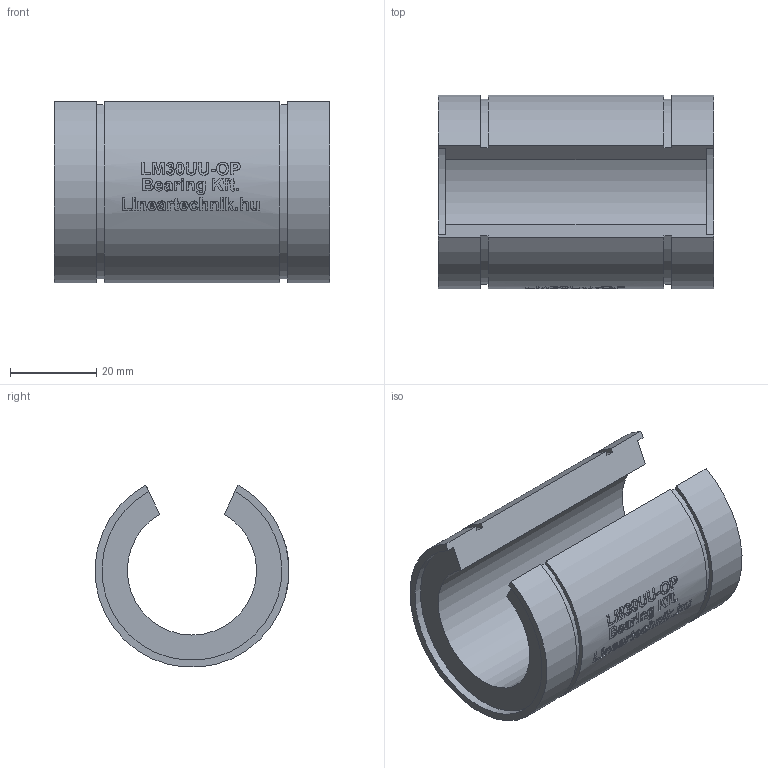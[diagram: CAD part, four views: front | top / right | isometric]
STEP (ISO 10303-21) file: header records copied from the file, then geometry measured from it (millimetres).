
FILE_DESCRIPTION(/* description */ (''),/* implementation_level */ '2;1');
FILE_NAME(/* name */ 'LM30UU-OP',/* time_stamp */ '2019-07-10T16:11:31+02:00',/* author */ ('VĂ©gh MĂˇtĂ©'),/* organization */ ('Bearing Kft'),/* preprocessor_version */ 'ST-DEVELOPER v16.7',/* originating_system */ 'DEX',/* authorisation */ $);
FILE_SCHEMA (('AUTOMOTIVE_DESIGN {1 0 10303 214 3 1 1}'));
Length unit declared in the file: millimetre
Products named in the file (1): LM30UU-OP
Bounding box: 64 x 44.97 x 42.22 mm (x, y, z)
Volume: 45008.2 mm3; surface area: 15644.8 mm2
Topology: 1 solids, 1 shells, 322 faces, 811 edges, 541 vertices
Faces by surface type: plane 165, bspline 99, cylinder 58
Entity records: 17890 total; most frequent: CARTESIAN_POINT 10656, ORIENTED_EDGE 1612, DIRECTION 1208, EDGE_CURVE 806, VERTEX_POINT 541, LINE 450, VECTOR 450, AXIS2_PLACEMENT_3D 379
